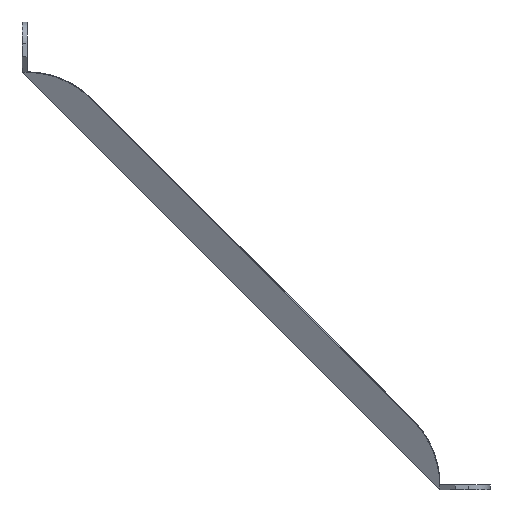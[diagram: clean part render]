
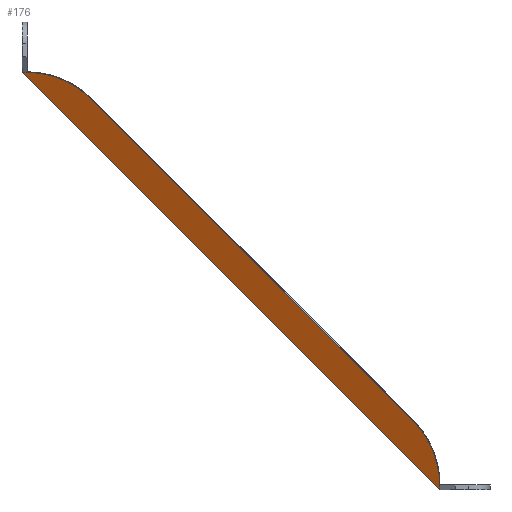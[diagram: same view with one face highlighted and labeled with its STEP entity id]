
A CAD part, front view. The second image highlights one B-rep face of the part: STEP entity #176.
In plain terms, the highlighted planar face has unit normal (-0.272, -0.923, -0.272).
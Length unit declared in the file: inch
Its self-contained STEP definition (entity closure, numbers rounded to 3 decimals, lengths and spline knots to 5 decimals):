
#176=ADVANCED_FACE('',(#342),#343,.F.);
#342=FACE_OUTER_BOUND('',#796,.T.);
#343=PLANE('',#797);
#796=EDGE_LOOP('',(#1188,#1189,#1190,#1191,#1192,#1193));
#797=AXIS2_PLACEMENT_3D('',#1194,#1195,#1196);
#1188=ORIENTED_EDGE('',*,*,#1328,.F.);
#1189=ORIENTED_EDGE('',*,*,#1374,.F.);
#1190=ORIENTED_EDGE('',*,*,#1262,.F.);
#1191=ORIENTED_EDGE('',*,*,#1293,.F.);
#1192=ORIENTED_EDGE('',*,*,#1339,.F.);
#1193=ORIENTED_EDGE('',*,*,#1272,.F.);
#1194=CARTESIAN_POINT('',(-0.11409,0.2002,0.34823));
#1195=DIRECTION('',(0.272,0.923,0.272));
#1196=DIRECTION('',(-0.653,0.385,-0.653));
#1262=EDGE_CURVE('',#1480,#1482,#1483,.T.);
#1272=EDGE_CURVE('',#1497,#1425,#1499,.T.);
#1293=EDGE_CURVE('',#1527,#1480,#1529,.T.);
#1328=EDGE_CURVE('',#1575,#1497,#1577,.T.);
#1339=EDGE_CURVE('',#1425,#1527,#1593,.T.);
#1374=EDGE_CURVE('',#1482,#1575,#1634,.T.);
#1425=VERTEX_POINT('',#1754);
#1480=VERTEX_POINT('',#1848);
#1482=VERTEX_POINT('',#1851);
#1483=LINE('',#1852,#1853);
#1497=VERTEX_POINT('',#1873);
#1499=LINE('',#1876,#1877);
#1527=VERTEX_POINT('',#1942);
#1529=B_SPLINE_CURVE_WITH_KNOTS('',3,(#1945,#1946,#1947,#1948,#1949,#1950,#1951,#1952),.UNSPECIFIED.,.F.,.F.,(4,2,2,4),(-2.25794,-1.6384,-1.01469,-0.0),.UNSPECIFIED.);
#1575=VERTEX_POINT('',#2054);
#1577=LINE('',#2057,#2058);
#1593=LINE('',#2100,#2101);
#1634=B_SPLINE_CURVE_WITH_KNOTS('',3,(#2186,#2187,#2188,#2189,#2190,#2191,#2192,#2193),.UNSPECIFIED.,.F.,.F.,(4,2,2,4),(-2.25932,-1.61871,-0.9928,-0.0),.UNSPECIFIED.);
#1754=CARTESIAN_POINT('',(-13.29698,0.40872,12.82476));
#1848=CARTESIAN_POINT('',(-11.1795,0.02943,11.99213));
#1851=CARTESIAN_POINT('',(-1.31338,0.02943,2.12601));
#1852=CARTESIAN_POINT('',(-3.03564,0.02943,3.84827));
#1853=VECTOR('',#2228,1.0);
#1873=CARTESIAN_POINT('',(-0.48075,0.40872,0.00853));
#1876=CARTESIAN_POINT('',(-0.46727,0.40872,-0.00495));
#1877=VECTOR('',#2236,1.0);
#1942=CARTESIAN_POINT('',(-13.17439,0.37266,12.82433));
#1945=CARTESIAN_POINT('',(-13.17439,0.37266,12.82433));
#1946=CARTESIAN_POINT('',(-12.97622,0.31437,12.82362));
#1947=CARTESIAN_POINT('',(-12.77713,0.26197,12.80203));
#1948=CARTESIAN_POINT('',(-12.38224,0.17093,12.71553));
#1949=CARTESIAN_POINT('',(-12.18793,0.13273,12.65063));
#1950=CARTESIAN_POINT('',(-11.69713,0.05456,12.42462));
#1951=CARTESIAN_POINT('',(-11.41866,0.02943,12.23129));
#1952=CARTESIAN_POINT('',(-11.1795,0.02943,11.99213));
#2054=CARTESIAN_POINT('',(-0.48119,0.37266,0.13112));
#2057=CARTESIAN_POINT('',(-0.48097,0.39059,0.07017));
#2058=VECTOR('',#2260,1.0);
#2100=CARTESIAN_POINT('',(-7.30411,-1.35406,12.8034));
#2101=VECTOR('',#2263,1.0);
#2186=CARTESIAN_POINT('',(-1.31338,0.02943,2.12601));
#2187=CARTESIAN_POINT('',(-1.16258,0.02943,1.97521));
#2188=CARTESIAN_POINT('',(-1.02955,0.03942,1.80834));
#2189=CARTESIAN_POINT('',(-0.8061,0.07836,1.45298));
#2190=CARTESIAN_POINT('',(-0.71582,0.10668,1.26677));
#2191=CARTESIAN_POINT('',(-0.53705,0.20134,0.76732));
#2192=CARTESIAN_POINT('',(-0.48232,0.27927,0.44861));
#2193=CARTESIAN_POINT('',(-0.48119,0.37266,0.13112));
#2228=DIRECTION('',(0.707,0.,-0.707));
#2236=DIRECTION('',(-0.707,0.0,0.707));
#2260=DIRECTION('',(0.003,0.282,-0.959));
#2263=DIRECTION('',(0.959,-0.282,-0.003));
